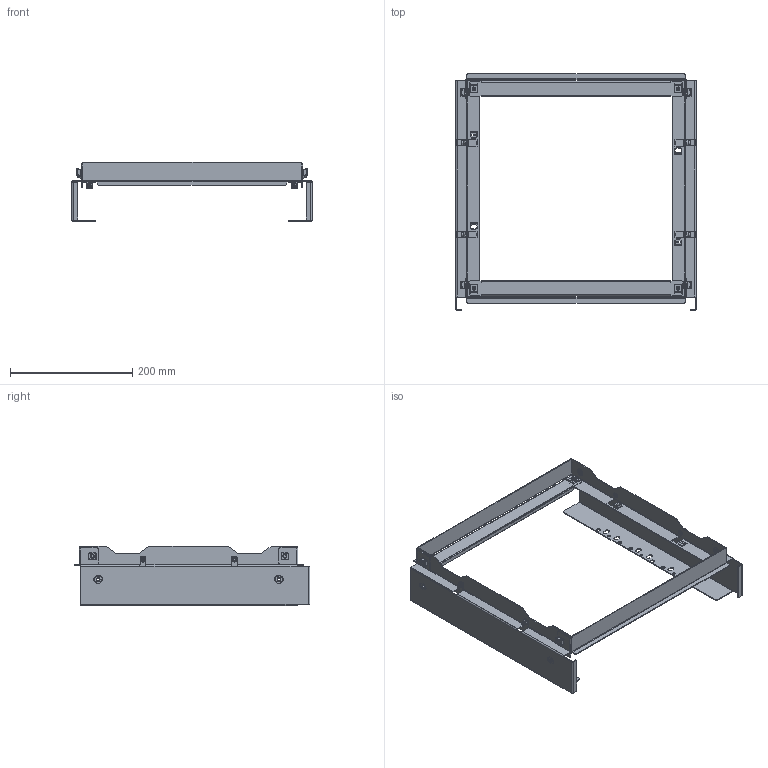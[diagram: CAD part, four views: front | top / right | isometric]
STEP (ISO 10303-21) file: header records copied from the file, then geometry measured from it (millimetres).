
FILE_DESCRIPTION (( 'STEP AP203' ), '1' );
FILE_NAME ('R5STMF44.STEP', '2022-04-13T09:36:05', ( '' ), ( '' ), 'SwSTEP 2.0', 'SolidWorks 2020', '' );
FILE_SCHEMA (( 'CONFIG_CONTROL_DESIGN' ));
Length unit declared in the file: millimetre
Products named in the file (14): RB.2135.00.01.0; 294-9118.00-00050; RB.1086.00.00.0_-01; M6x12 DIN 965 PH cl.4,8 Zinc_stright; RB.2135.00.00.0 捘; M6 DIN 6923 cl.8,0 Zinc_straight; RB.2134.00.00.0_-08; RB.2136.00.00.0_-01; M4 MGR-MKO-0420_straight; R5STMF44; M6 A3400002 Zinc_straight; RB.0376.00.00.0_-00; RB.2134.00.00.0; M4x8 DIN 965 PH cl.4,8 Zinc_straight
Assembly tree (35 placements, depth 3):
  R5STMF44
    RB.2134.00.00.0
    RB.2135.00.00.0 捘  x2
      RB.2135.00.01.0
      M4 MGR-MKO-0420_straight
    RB.2136.00.00.0_-01  x2
    RB.1086.00.00.0_-01  x2
    RB.2134.00.00.0_-08
    M6 A3400002 Zinc_straight  x4
    M6x12 DIN 965 PH cl.4,8 Zinc_stright  x4
    M4x8 DIN 965 PH cl.4,8 Zinc_straight  x4
    294-9118.00-00050  x4
    RB.0376.00.00.0_-00  x4
    M6 DIN 6923 cl.8,0 Zinc_straight  x4
Bounding box: 393.6 x 386.4 x 96.67 mm (x, y, z)
Volume: 273491.2 mm3; surface area: 394129.4 mm2
Topology: 36 solids, 36 shells, 2214 faces, 5698 edges, 3548 vertices
Faces by surface type: plane 1336, cylinder 610, cone 160, bspline 68, torus 24, sphere 16
Entity records: 29691 total; most frequent: CARTESIAN_POINT 5604, ORIENTED_EDGE 4586, DIRECTION 4555, EDGE_CURVE 2293, VECTOR 1581, LINE 1581, AXIS2_PLACEMENT_3D 1487, VERTEX_POINT 1434
